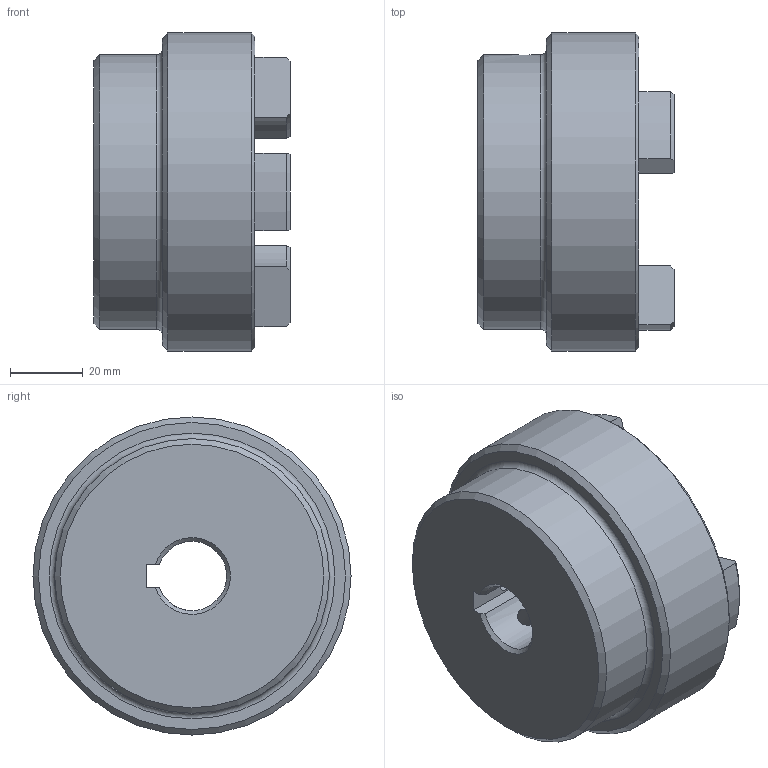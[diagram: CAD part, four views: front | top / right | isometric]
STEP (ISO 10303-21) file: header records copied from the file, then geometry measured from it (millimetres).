
FILE_DESCRIPTION (( 'STEP AP203' ), '1' );
FILE_NAME ('RC3.step', '2024-07-24T12:44:59', ( 'Adlan' ), ( '' ), 'SwSTEP 2.0', 'SolidWorks 2013', '' );
FILE_SCHEMA (( 'CONFIG_CONTROL_DESIGN' ));
Length unit declared in the file: inch
Products named in the file (1): RC3
Bounding box: 53.85 x 87.38 x 87.38 mm (x, y, z)
Volume: 185605.6 mm3; surface area: 30436.1 mm2
Topology: 1 solids, 1 shells, 67 faces, 168 edges, 105 vertices
Faces by surface type: cylinder 26, plane 16, torus 13, cone 12
Full cylindrical faces by diameter (mm): 5.105 x2, 75.438 x1, 87.376 x1
Entity records: 2237 total; most frequent: CARTESIAN_POINT 562, DIRECTION 354, ORIENTED_EDGE 310, EDGE_CURVE 155, AXIS2_PLACEMENT_3D 142, VERTEX_POINT 102, EDGE_LOOP 85, CIRCLE 74
